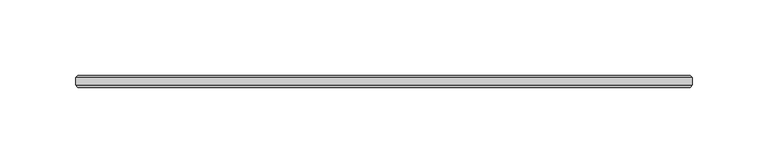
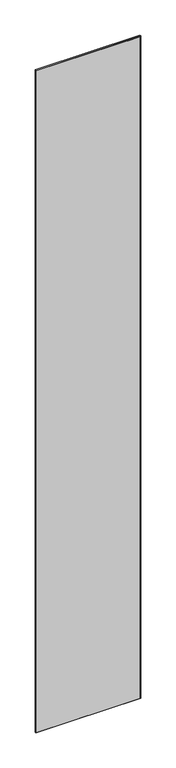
"""IFC4 building model written with IfcOpenShell, lengths in millimetres: plate geometry, 1-AMG-1-Панель одинарный витраж 8, 10 : Смещение 32 Толщина 8mm."""

from ifc_helpers import new_model, si_unit, origin, place, context, project, spatial, faceted_brep, source, transform, mapped, element, save


def plate_426ea1b5(model_context):
    return source(origin(), model_context, "Body", "Brep", [
        faceted_brep([(206.4488281, 29.5038347, 2722.8), (206.4488281, 34.4961653, 2722.8), (-201.4488281, 34.4961653, 2722.8), (-201.4488281, 29.5038347, 2722.8), (206.4488281, 34.4961653, -7.0), (206.4488281, 29.5038347, -7.0), (-201.4488281, 29.5038347, -7.0), (-201.4488281, 34.4961653, -7.0), (-199.9449934, 36.0, 2721.2961653), (204.9449934, 36.0, 2721.2961653), (204.9449934, 36.0, -5.5039422), (-199.9449934, 36.0, -5.5039422), (204.9449934, 28.0, 2721.2961653), (-199.9449934, 28.0, 2721.2961653), (-199.9449934, 28.0, -5.4961653), (204.9449934, 28.0, -5.4961653)], [[[0, 1, 2, 3]], [[4, 5, 6, 7]], [[8, 9, 10, 11]], [[3, 2, 7, 6]], [[12, 13, 14, 15]], [[1, 0, 5, 4]], [[1, 4, 10, 9]], [[5, 0, 12, 15]], [[7, 2, 8, 11]], [[3, 6, 14, 13]], [[0, 3, 13, 12]], [[2, 1, 9, 8]], [[6, 5, 15, 14]], [[4, 7, 11, 10]]]),
    ])


if __name__ == "__main__":
    model = new_model("IFC4")
    model_context = context("Model", 3, world=origin())
    ifc_project = project(units=[si_unit("LENGTHUNIT", "METRE", prefix="MILLI")], contexts=[model_context])
    site = spatial("IfcSite", under=ifc_project)
    building = spatial("IfcBuilding", under=site)
    placement = place(None, origin())
    plate_shape = plate_426ea1b5(model_context)
    element("IfcPlate", 1, ObjectType="1-AMG-1-Панель одинарный витраж 8, 10 : Смещение 32 Толщина 8mm", at=placement, inside=building, context=model_context, shape_type="MappedRepresentation", body=[
        mapped(plate_shape, transform((0.0, 0.0, 0.0), x_axis=(1.0, 0.0, 0.0), y_axis=(0.0, 1.0, 0.0), z_axis=(0.0, 0.0, 1.0))),
    ])
    save(model, "model.ifc")
